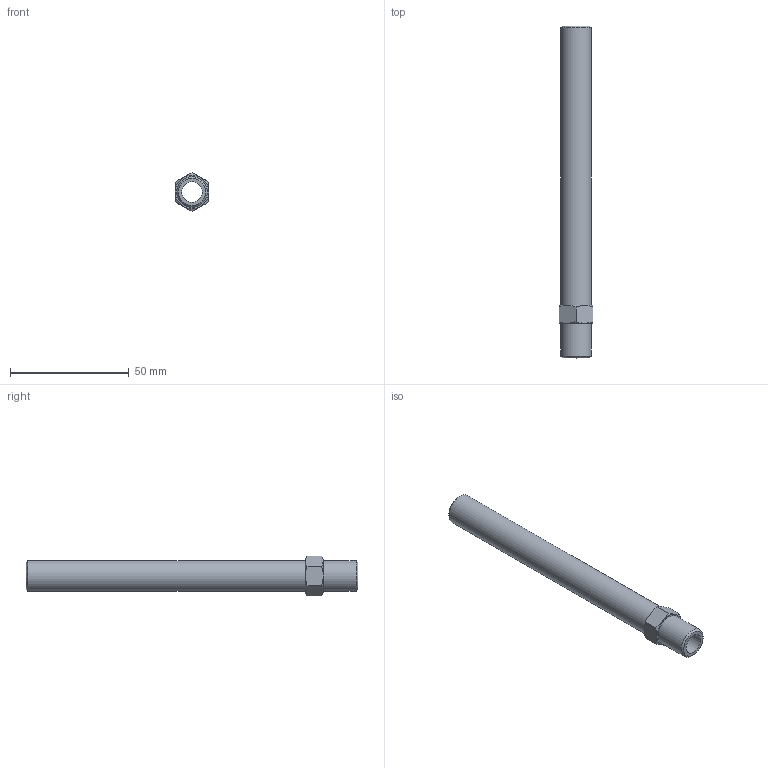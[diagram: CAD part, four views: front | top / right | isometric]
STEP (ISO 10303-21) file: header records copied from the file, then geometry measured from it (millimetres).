
FILE_DESCRIPTION(/* description */ (''),/* implementation_level */ '2;1');
FILE_NAME(/* name */ 'C:/Users/drich/Desktop/APN14-5-1_2 v1.step',/* time_stamp */ '2019-12-27T17:45:00-06:00',/* author */ (''),/* organization */ (''),/* preprocessor_version */ 'ST-DEVELOPER v18',/* originating_system */ 'Autodesk Translation Framework v8.12.0.6',/* authorisation */ '');
FILE_SCHEMA (('AUTOMOTIVE_DESIGN { 1 0 10303 214 3 1 1 }'));
Length unit declared in the file: inch
Products named in the file (1): APN14-5-1_2
Bounding box: 14.27 x 139.7 x 16.48 mm (x, y, z)
Volume: 10603.2 mm3; surface area: 9782.7 mm2
Topology: 1 solids, 1 shells, 17 faces, 39 edges, 26 vertices
Faces by surface type: plane 10, cone 4, cylinder 3
Full cylindrical faces by diameter (mm): 8.712 x1, 13.032 x2
Entity records: 521 total; most frequent: CARTESIAN_POINT 107, ORIENTED_EDGE 78, DIRECTION 77, EDGE_CURVE 39, AXIS2_PLACEMENT_3D 32, VERTEX_POINT 26, EDGE_LOOP 21, FACE_OUTER_BOUND 17
